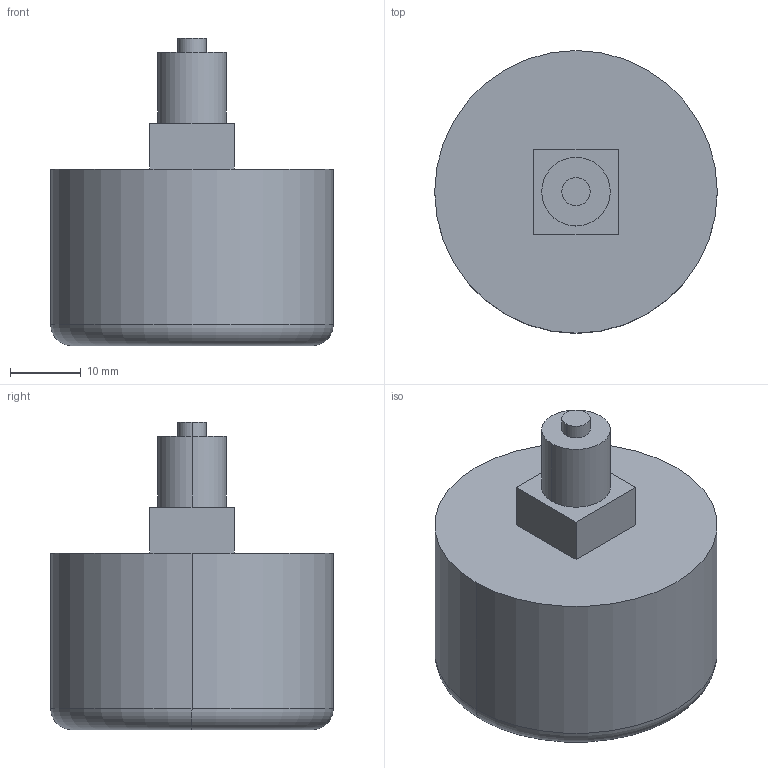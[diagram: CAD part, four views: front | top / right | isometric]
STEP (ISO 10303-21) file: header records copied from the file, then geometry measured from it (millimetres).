
FILE_DESCRIPTION (( 'STEP AP214' ), '1' );
FILE_NAME ('85001211.STEP', '2022-12-01T09:30:17', ( '' ), ( '' ), 'SwSTEP 2.0', 'SolidWorks 2022', '' );
FILE_SCHEMA (( 'AUTOMOTIVE_DESIGN' ));
Length unit declared in the file: millimetre
Products named in the file (1): 85001211
Bounding box: 40 x 40 x 43.5 mm (x, y, z)
Volume: 32881.5 mm3; surface area: 6130.9 mm2
Topology: 1 solids, 1 shells, 17 faces, 34 edges, 22 vertices
Faces by surface type: plane 9, cylinder 6, torus 2
Entity records: 482 total; most frequent: DIRECTION 86, CARTESIAN_POINT 74, ORIENTED_EDGE 68, AXIS2_PLACEMENT_3D 34, EDGE_CURVE 34, VERTEX_POINT 22, EDGE_LOOP 20, VECTOR 18
